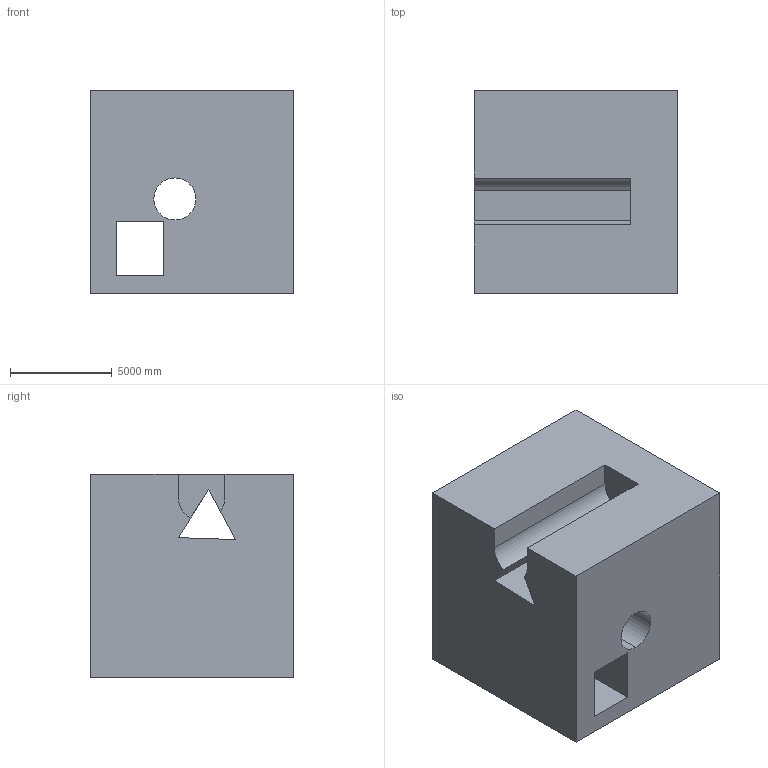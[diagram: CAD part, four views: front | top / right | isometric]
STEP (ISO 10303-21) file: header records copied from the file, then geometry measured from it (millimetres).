
FILE_DESCRIPTION (( 'STEP AP203' ), '1' );
FILE_NAME ('478.STEP', '2022-07-29T11:26:37', ( 'user' ), ( '' ), 'SwSTEP 2.0', 'SolidWorks 2021', '' );
FILE_SCHEMA (( 'CONFIG_CONTROL_DESIGN' ));
Length unit declared in the file: centimetre
Products named in the file (1): 478
Bounding box: 10000 x 10000 x 10000 mm (x, y, z)
Volume: 827235601455.5 mm3; surface area: 820856443.5 mm2
Topology: 1 solids, 1 shells, 24 faces, 69 edges, 46 vertices
Faces by surface type: plane 18, cylinder 6
Entity records: 874 total; most frequent: CARTESIAN_POINT 140, ORIENTED_EDGE 138, DIRECTION 131, EDGE_CURVE 69, VECTOR 57, LINE 57, VERTEX_POINT 46, AXIS2_PLACEMENT_3D 37
